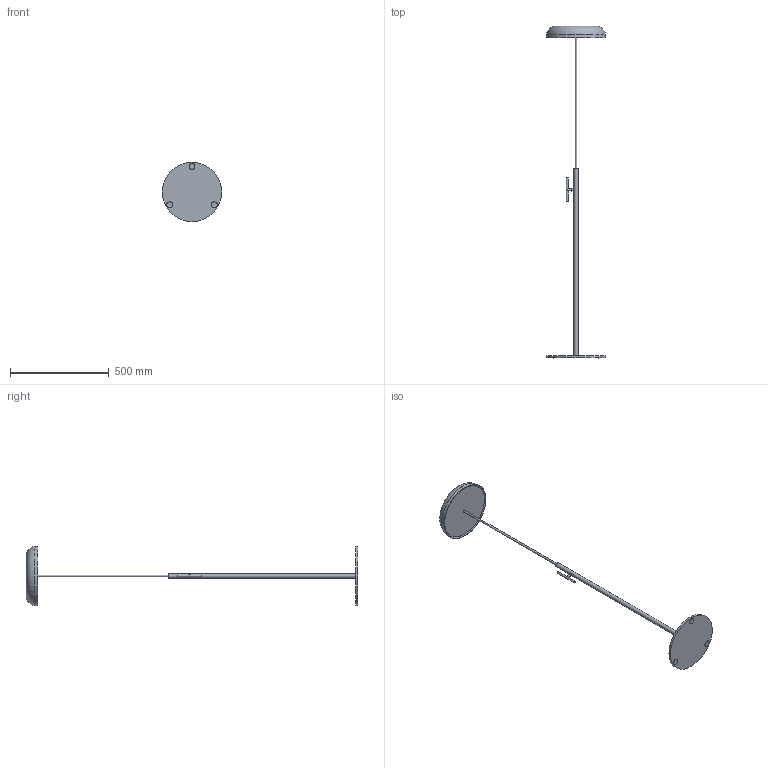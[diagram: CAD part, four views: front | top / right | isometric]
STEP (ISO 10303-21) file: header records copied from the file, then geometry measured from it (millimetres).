
FILE_DESCRIPTION(/* description */ (''),/* implementation_level */ '2;1');
FILE_NAME(/* name */ 'C:\Users\msina\Desktop\LCItalia\PER RENDER\PER SITO\zero terra h max.stp',/* time_stamp */ '2022-10-07T14:27:20+02:00',/* author */ ('msina'),/* organization */ (''),/* preprocessor_version */ 'ST-DEVELOPER v18',/* originating_system */ 'Autodesk Inventor 2020',/* authorisation */ '');
FILE_SCHEMA (('AUTOMOTIVE_DESIGN { 1 0 10303 214 3 1 1 }'));
Length unit declared in the file: millimetre
Products named in the file (1): zero terra h max per render
Bounding box: 300 x 1680 x 300 mm (x, y, z)
Volume: 1300348.4 mm3; surface area: 635207.9 mm2
Topology: 11 solids, 11 shells, 54 faces, 133 edges, 110 vertices
Faces by surface type: plane 26, cylinder 16, torus 8, cone 4
Full cylindrical faces by diameter (mm): 10 x5, 11 x1, 15 x1, 23 x1, 30 x3, 53 x1, 55 x1, 57 x1, 286 x1, 300 x1
Entity records: 1767 total; most frequent: DIRECTION 346, CARTESIAN_POINT 293, ORIENTED_EDGE 256, AXIS2_PLACEMENT_3D 163, EDGE_CURVE 128, CIRCLE 105, VERTEX_POINT 100, EDGE_LOOP 62
